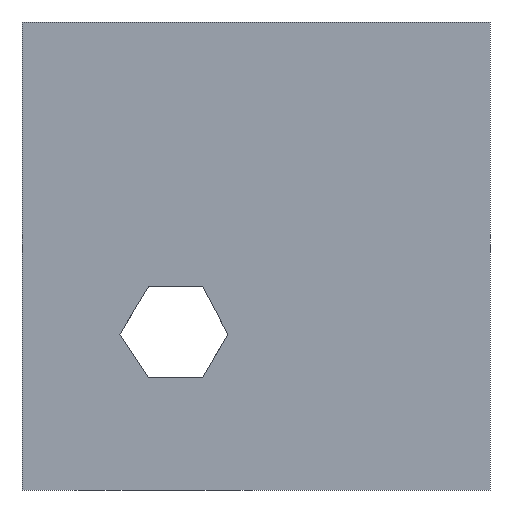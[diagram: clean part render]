
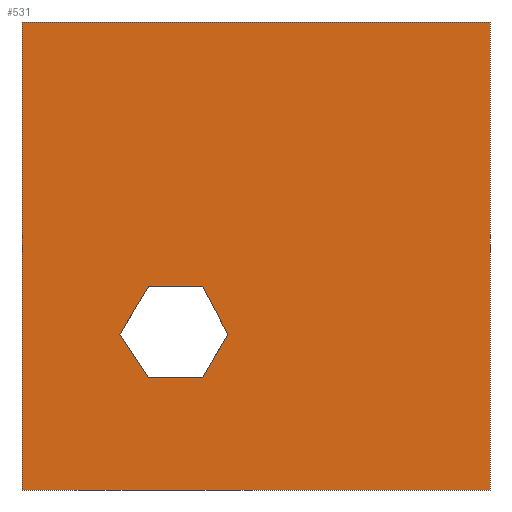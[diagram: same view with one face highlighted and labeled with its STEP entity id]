
A CAD part, front view. The second image highlights one B-rep face of the part: STEP entity #531.
In plain terms, the highlighted planar face has unit normal (0, -1, 0).
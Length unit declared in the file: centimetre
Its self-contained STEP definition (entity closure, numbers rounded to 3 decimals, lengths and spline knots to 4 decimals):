
#13 = DIRECTION ( 'NONE',  ( 1., 0., 0. ) ) ;
#14 = EDGE_CURVE ( 'NONE', #701, #46, #595, .T. ) ;
#21 = CARTESIAN_POINT ( 'NONE',  ( 385.9716, 0., 239.7063 ) ) ;
#32 = CARTESIAN_POINT ( 'NONE',  ( 0., 0., 1000. ) ) ;
#46 = VERTEX_POINT ( 'NONE', #724 ) ;
#60 = DIRECTION ( 'NONE',  ( 0., 0., 1. ) ) ;
#67 = VECTOR ( 'NONE', #659, 100. ) ;
#73 = EDGE_CURVE ( 'NONE', #688, #92, #128, .T. ) ;
#92 = VERTEX_POINT ( 'NONE', #455 ) ;
#95 = EDGE_CURVE ( 'NONE', #801, #617, #794, .T. ) ;
#124 = CARTESIAN_POINT ( 'NONE',  ( 439.7844, 0., 332.9127 ) ) ;
#128 = LINE ( 'NONE', #868, #742 ) ;
#149 = CARTESIAN_POINT ( 'NONE',  ( 208.9777, 0., 332.9127 ) ) ;
#158 = FACE_OUTER_BOUND ( 'NONE', #258, .T. ) ;
#198 = DIRECTION ( 'NONE',  ( 1., 0., 0. ) ) ;
#207 = ORIENTED_EDGE ( 'NONE', *, *, #784, .T. ) ;
#216 = DIRECTION ( 'NONE',  ( 0., 1., 0. ) ) ;
#226 = CARTESIAN_POINT ( 'NONE',  ( 0., 0., 1000. ) ) ;
#258 = EDGE_LOOP ( 'NONE', ( #270, #445, #396, #333 ) ) ;
#270 = ORIENTED_EDGE ( 'NONE', *, *, #305, .T. ) ;
#305 = EDGE_CURVE ( 'NONE', #574, #46, #372, .T. ) ;
#310 = DIRECTION ( 'NONE',  ( 1., 0., 0. ) ) ;
#313 = ORIENTED_EDGE ( 'NONE', *, *, #647, .T. ) ;
#314 = LINE ( 'NONE', #718, #684 ) ;
#333 = ORIENTED_EDGE ( 'NONE', *, *, #399, .T. ) ;
#341 = VECTOR ( 'NONE', #198, 100. ) ;
#350 = CARTESIAN_POINT ( 'NONE',  ( 0., 0., 1000. ) ) ;
#356 = EDGE_CURVE ( 'NONE', #617, #688, #383, .T. ) ;
#359 = CARTESIAN_POINT ( 'NONE',  ( 270.5683, 0., 435.1002 ) ) ;
#372 = LINE ( 'NONE', #533, #341 ) ;
#383 = LINE ( 'NONE', #124, #67 ) ;
#396 = ORIENTED_EDGE ( 'NONE', *, *, #410, .F. ) ;
#399 = EDGE_CURVE ( 'NONE', #522, #574, #314, .T. ) ;
#409 = VECTOR ( 'NONE', #310, 100. ) ;
#410 = EDGE_CURVE ( 'NONE', #522, #701, #523, .T. ) ;
#418 = EDGE_LOOP ( 'NONE', ( #665, #726, #653, #207, #611, #313 ) ) ;
#420 = CARTESIAN_POINT ( 'NONE',  ( 270.5683, 0., 435.1002 ) ) ;
#445 = ORIENTED_EDGE ( 'NONE', *, *, #14, .F. ) ;
#455 = CARTESIAN_POINT ( 'NONE',  ( 270.5683, 0., 239.7063 ) ) ;
#467 = CARTESIAN_POINT ( 'NONE',  ( 385.9716, 0., 435.1002 ) ) ;
#471 = VECTOR ( 'NONE', #473, 100. ) ;
#473 = DIRECTION ( 'NONE',  ( 0., 0., -1. ) ) ;
#481 = FACE_BOUND ( 'NONE', #418, .T. ) ;
#487 = CARTESIAN_POINT ( 'NONE',  ( 1000., 0., 1000. ) ) ;
#493 = VERTEX_POINT ( 'NONE', #676 ) ;
#505 = VECTOR ( 'NONE', #13, 100. ) ;
#508 = CARTESIAN_POINT ( 'NONE',  ( 270.5683, 0., 239.7063 ) ) ;
#522 = VERTEX_POINT ( 'NONE', #350 ) ;
#523 = LINE ( 'NONE', #32, #409 ) ;
#531 = ADVANCED_FACE ( 'NONE', ( #481, #158 ), #822, .F. ) ;
#533 = CARTESIAN_POINT ( 'NONE',  ( 0., 0., 0. ) ) ;
#567 = LINE ( 'NONE', #149, #579 ) ;
#572 = AXIS2_PLACEMENT_3D ( 'NONE', #226, #216, #60 ) ;
#574 = VERTEX_POINT ( 'NONE', #681 ) ;
#579 = VECTOR ( 'NONE', #769, 100. ) ;
#595 = LINE ( 'NONE', #610, #471 ) ;
#610 = CARTESIAN_POINT ( 'NONE',  ( 1000., 0., 1000. ) ) ;
#611 = ORIENTED_EDGE ( 'NONE', *, *, #706, .T. ) ;
#617 = VERTEX_POINT ( 'NONE', #830 ) ;
#619 = VECTOR ( 'NONE', #661, 100. ) ;
#632 = LINE ( 'NONE', #359, #505 ) ;
#636 = VERTEX_POINT ( 'NONE', #420 ) ;
#647 = EDGE_CURVE ( 'NONE', #636, #801, #632, .T. ) ;
#653 = ORIENTED_EDGE ( 'NONE', *, *, #73, .T. ) ;
#656 = DIRECTION ( 'NONE',  ( -1., 0., 0. ) ) ;
#659 = DIRECTION ( 'NONE',  ( -0.5, 0., -0.866 ) ) ;
#661 = DIRECTION ( 'NONE',  ( 0.466, 0., -0.885 ) ) ;
#664 = DIRECTION ( 'NONE',  ( 0., 0., -1. ) ) ;
#665 = ORIENTED_EDGE ( 'NONE', *, *, #95, .T. ) ;
#676 = CARTESIAN_POINT ( 'NONE',  ( 208.9777, 0., 332.9127 ) ) ;
#681 = CARTESIAN_POINT ( 'NONE',  ( 0., 0., 0. ) ) ;
#684 = VECTOR ( 'NONE', #664, 100. ) ;
#688 = VERTEX_POINT ( 'NONE', #21 ) ;
#701 = VERTEX_POINT ( 'NONE', #487 ) ;
#704 = VECTOR ( 'NONE', #792, 100. ) ;
#706 = EDGE_CURVE ( 'NONE', #493, #636, #567, .T. ) ;
#709 = CARTESIAN_POINT ( 'NONE',  ( 385.9716, 0., 435.1002 ) ) ;
#718 = CARTESIAN_POINT ( 'NONE',  ( 0., 0., 1000. ) ) ;
#722 = LINE ( 'NONE', #508, #704 ) ;
#724 = CARTESIAN_POINT ( 'NONE',  ( 1000., 0., 0. ) ) ;
#726 = ORIENTED_EDGE ( 'NONE', *, *, #356, .T. ) ;
#742 = VECTOR ( 'NONE', #656, 100. ) ;
#769 = DIRECTION ( 'NONE',  ( 0.516, 0., 0.856 ) ) ;
#784 = EDGE_CURVE ( 'NONE', #92, #493, #722, .T. ) ;
#792 = DIRECTION ( 'NONE',  ( -0.551, 0., 0.834 ) ) ;
#794 = LINE ( 'NONE', #467, #619 ) ;
#801 = VERTEX_POINT ( 'NONE', #709 ) ;
#822 = PLANE ( 'NONE',  #572 ) ;
#830 = CARTESIAN_POINT ( 'NONE',  ( 439.7844, 0., 332.9127 ) ) ;
#868 = CARTESIAN_POINT ( 'NONE',  ( 385.9716, 0., 239.7063 ) ) ;
